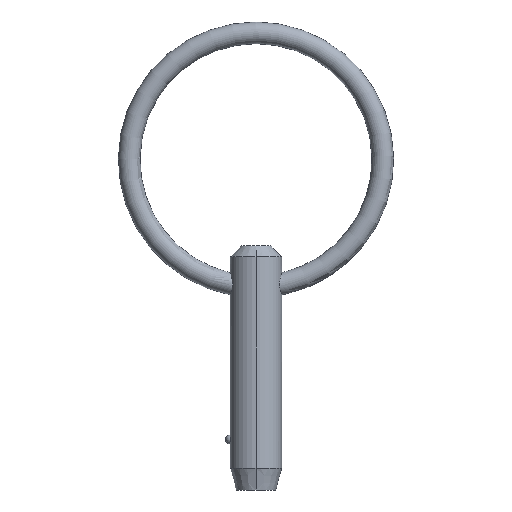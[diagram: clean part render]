
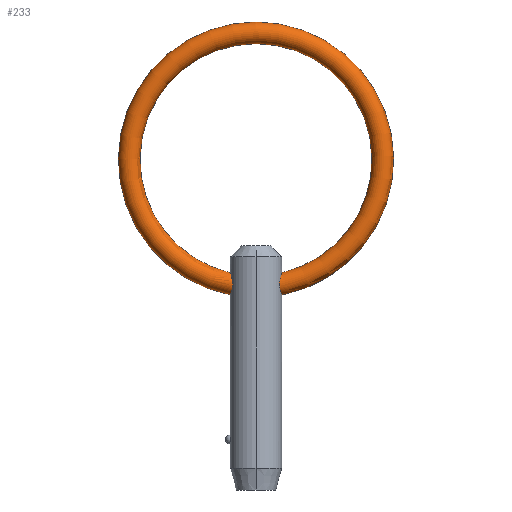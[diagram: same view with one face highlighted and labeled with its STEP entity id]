
A CAD part, left-side view. The second image highlights one B-rep face of the part: STEP entity #233.
In plain terms, the highlighted toroidal (fillet/blend) face has major radius 11.7 mm and minor radius 1 mm.
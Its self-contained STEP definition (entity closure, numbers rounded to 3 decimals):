
#7 = CARTESIAN_POINT ( 'NONE',  ( 0., 0., 25.4 ) ) ;
#9 = DIRECTION ( 'NONE',  ( 0., 0., -1. ) ) ;
#11 = CARTESIAN_POINT ( 'NONE',  ( -0.864, 2.218, 14.441 ) ) ;
#13 = CARTESIAN_POINT ( 'NONE',  ( -0.133, 2.38, 12.925 ) ) ;
#26 = EDGE_CURVE ( 'NONE', #189, #111, #324, .T. ) ;
#28 = CARTESIAN_POINT ( 'NONE',  ( -0.982, -2.169, 13.665 ) ) ;
#32 = CARTESIAN_POINT ( 'NONE',  ( -1.004, -2.158, 13.799 ) ) ;
#34 = CARTESIAN_POINT ( 'NONE',  ( 0., -2.38, 14.968 ) ) ;
#41 = CARTESIAN_POINT ( 'NONE',  ( 0., 2.38, 14.968 ) ) ;
#45 = CARTESIAN_POINT ( 'NONE',  ( -0.267, 2.368, 14.937 ) ) ;
#46 = CARTESIAN_POINT ( 'NONE',  ( -0.996, 2.162, 14.065 ) ) ;
#59 = DIRECTION ( 'NONE',  ( 1., 0., 0. ) ) ;
#70 = FACE_OUTER_BOUND ( 'NONE', #218, .T. ) ;
#80 = CIRCLE ( 'NONE', #274, 10.7 ) ;
#81 = CARTESIAN_POINT ( 'NONE',  ( -0.614, 2.301, 14.745 ) ) ;
#85 = CARTESIAN_POINT ( 'NONE',  ( -0.512, 2.328, 13.048 ) ) ;
#92 = EDGE_CURVE ( 'NONE', #111, #447, #305, .T. ) ;
#94 = CARTESIAN_POINT ( 'NONE',  ( 0., -2.38, 12.925 ) ) ;
#104 = CARTESIAN_POINT ( 'NONE',  ( -0.514, -2.327, 13.049 ) ) ;
#106 = CARTESIAN_POINT ( 'NONE',  ( 0., -2.38, 12.925 ) ) ;
#111 = VERTEX_POINT ( 'NONE', #106 ) ;
#113 = CARTESIAN_POINT ( 'NONE',  ( -1.001, 2.159, 13.864 ) ) ;
#116 = CARTESIAN_POINT ( 'NONE',  ( -0.507, 2.329, 14.825 ) ) ;
#124 = DIRECTION ( 'NONE',  ( 0., 0., -1. ) ) ;
#148 = AXIS2_PLACEMENT_3D ( 'NONE', #282, #59, #318 ) ;
#152 = B_SPLINE_CURVE_WITH_KNOTS ( 'NONE', 3,
 ( #41, #334, #45, #116, #81, #378, #11, #188, #46, #113, #377, #449, #227, #452, #450, #153, #85, #413, #13, #380 ),
 .UNSPECIFIED., .F., .F.,
 ( 4, 2, 2, 2, 2, 2, 2, 2, 2, 4 ),
 ( 0.004, 0.004, 0.005, 0.005, 0.005, 0.006, 0.006, 0.006, 0.007, 0.007 ),
 .UNSPECIFIED. ) ;
#153 = CARTESIAN_POINT ( 'NONE',  ( -0.626, 2.298, 13.122 ) ) ;
#174 = CARTESIAN_POINT ( 'NONE',  ( -0.268, -2.368, 12.951 ) ) ;
#175 = CARTESIAN_POINT ( 'NONE',  ( -0.134, -2.38, 14.968 ) ) ;
#176 = CARTESIAN_POINT ( 'NONE',  ( -0.613, -2.302, 14.746 ) ) ;
#178 = VERTEX_POINT ( 'NONE', #375 ) ;
#188 = CARTESIAN_POINT ( 'NONE',  ( -0.966, 2.176, 14.196 ) ) ;
#189 = VERTEX_POINT ( 'NONE', #299 ) ;
#200 = ORIENTED_EDGE ( 'NONE', *, *, #92, .F. ) ;
#209 = CARTESIAN_POINT ( 'NONE',  ( -0.885, -2.21, 13.417 ) ) ;
#218 = EDGE_LOOP ( 'NONE', ( #347, #432, #386, #200 ) ) ;
#227 = CARTESIAN_POINT ( 'NONE',  ( -0.957, 2.179, 13.602 ) ) ;
#233 = ADVANCED_FACE ( 'NONE', ( #70 ), #258, .T. ) ;
#258 = TOROIDAL_SURFACE ( 'NONE', #329, 11.7, 1. ) ;
#274 = AXIS2_PLACEMENT_3D ( 'NONE', #383, #316, #124 ) ;
#282 = CARTESIAN_POINT ( 'NONE',  ( 0., 0., 25.4 ) ) ;
#286 = CARTESIAN_POINT ( 'NONE',  ( -0.133, -2.38, 12.925 ) ) ;
#299 = CARTESIAN_POINT ( 'NONE',  ( 0., 2.38, 12.925 ) ) ;
#304 = EDGE_CURVE ( 'NONE', #178, #189, #152, .T. ) ;
#305 = B_SPLINE_CURVE_WITH_KNOTS ( 'NONE', 3,
 ( #94, #286, #174, #104, #363, #398, #209, #28, #32, #437, #364, #176, #394, #367, #175, #34 ),
 .UNSPECIFIED., .F., .F.,
 ( 4, 2, 2, 2, 2, 2, 2, 4 ),
 ( 0.006, 0.006, 0.007, 0.007, 0.007, 0.008, 0.009, 0.009 ),
 .UNSPECIFIED. ) ;
#316 = DIRECTION ( 'NONE',  ( 1., 0., 0. ) ) ;
#318 = DIRECTION ( 'NONE',  ( 0., 0., -1. ) ) ;
#324 = CIRCLE ( 'NONE', #148, 12.7 ) ;
#329 = AXIS2_PLACEMENT_3D ( 'NONE', #7, #370, #9 ) ;
#334 = CARTESIAN_POINT ( 'NONE',  ( -0.133, 2.38, 14.968 ) ) ;
#347 = ORIENTED_EDGE ( 'NONE', *, *, #26, .F. ) ;
#363 = CARTESIAN_POINT ( 'NONE',  ( -0.626, -2.298, 13.122 ) ) ;
#364 = CARTESIAN_POINT ( 'NONE',  ( -0.88, -2.219, 14.46 ) ) ;
#367 = CARTESIAN_POINT ( 'NONE',  ( -0.267, -2.368, 14.937 ) ) ;
#370 = DIRECTION ( 'NONE',  ( 1., 0., 0. ) ) ;
#375 = CARTESIAN_POINT ( 'NONE',  ( 0., 2.38, 14.968 ) ) ;
#377 = CARTESIAN_POINT ( 'NONE',  ( -0.997, 2.161, 13.798 ) ) ;
#378 = CARTESIAN_POINT ( 'NONE',  ( -0.793, 2.246, 14.552 ) ) ;
#380 = CARTESIAN_POINT ( 'NONE',  ( 0., 2.38, 12.925 ) ) ;
#383 = CARTESIAN_POINT ( 'NONE',  ( 0., 0., 25.4 ) ) ;
#386 = ORIENTED_EDGE ( 'NONE', *, *, #441, .T. ) ;
#394 = CARTESIAN_POINT ( 'NONE',  ( -0.505, -2.329, 14.826 ) ) ;
#398 = CARTESIAN_POINT ( 'NONE',  ( -0.811, -2.24, 13.306 ) ) ;
#413 = CARTESIAN_POINT ( 'NONE',  ( -0.267, 2.368, 12.951 ) ) ;
#428 = CARTESIAN_POINT ( 'NONE',  ( 0., -2.38, 14.968 ) ) ;
#432 = ORIENTED_EDGE ( 'NONE', *, *, #304, .F. ) ;
#437 = CARTESIAN_POINT ( 'NONE',  ( -0.991, -2.164, 14.201 ) ) ;
#441 = EDGE_CURVE ( 'NONE', #178, #447, #80, .T. ) ;
#447 = VERTEX_POINT ( 'NONE', #428 ) ;
#449 = CARTESIAN_POINT ( 'NONE',  ( -0.975, 2.171, 13.667 ) ) ;
#450 = CARTESIAN_POINT ( 'NONE',  ( -0.811, 2.24, 13.305 ) ) ;
#452 = CARTESIAN_POINT ( 'NONE',  ( -0.885, 2.21, 13.417 ) ) ;
